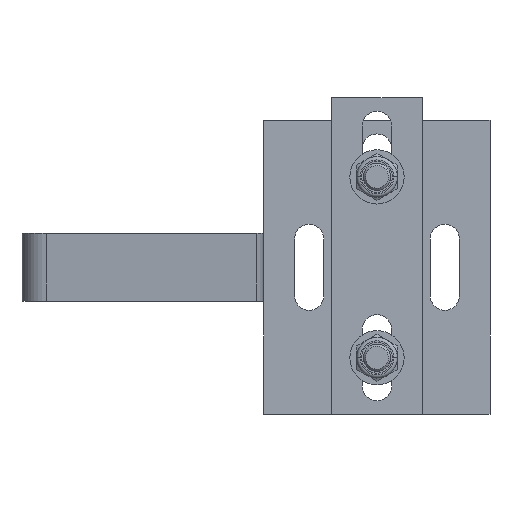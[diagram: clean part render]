
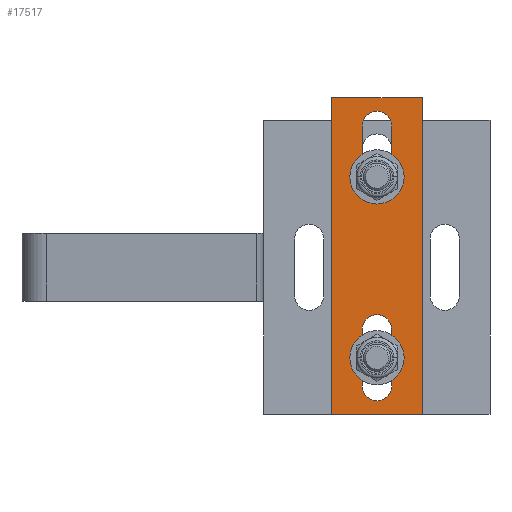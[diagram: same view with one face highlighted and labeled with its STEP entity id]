
A CAD part, front view. The second image highlights one B-rep face of the part: STEP entity #17517.
In plain terms, the highlighted planar face has unit normal (0, -1, 0).
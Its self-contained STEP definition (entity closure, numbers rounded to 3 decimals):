
#8710 = DIRECTION ( 'NONE',  ( 0., 0., -1. ) ) ;
#9213 = DIRECTION ( 'NONE',  ( 0., 0., 1. ) ) ;
#9448 = DIRECTION ( 'NONE',  ( 0., -1., 0. ) ) ;
#9449 = CARTESIAN_POINT ( 'NONE',  ( 70., 0., -20. ) ) ;
#9452 = AXIS2_PLACEMENT_3D ( 'NONE', #9449, #9448, #8710 ) ;
#9455 = PLANE ( 'NONE',  #9452 ) ;
#9542 = CARTESIAN_POINT ( 'NONE',  ( -70., 0., 20. ) ) ;
#9665 = CARTESIAN_POINT ( 'NONE',  ( 57.5, 0., 6.5 ) ) ;
#9666 = CIRCLE ( 'NONE', #9718, 6.5 ) ;
#9668 = CIRCLE ( 'NONE', #9669, 6.5 ) ;
#9669 = AXIS2_PLACEMENT_3D ( 'NONE', #9731, #9730, #9729 ) ;
#9671 = CARTESIAN_POINT ( 'NONE',  ( 32.5, 0., -6.5 ) ) ;
#9680 = DIRECTION ( 'NONE',  ( -1., 0., 0. ) ) ;
#9681 = VECTOR ( 'NONE', #9680, 1000. ) ;
#9682 = CARTESIAN_POINT ( 'NONE',  ( -57.5, 0., -6.5 ) ) ;
#9683 = LINE ( 'NONE', #9682, #9681 ) ;
#9697 = DIRECTION ( 'NONE',  ( 1., 0., 0. ) ) ;
#9698 = VECTOR ( 'NONE', #9697, 1000. ) ;
#9699 = CARTESIAN_POINT ( 'NONE',  ( -70., 0., 20. ) ) ;
#9700 = LINE ( 'NONE', #9699, #9698 ) ;
#9701 = FACE_BOUND ( 'NONE', #17471, .T. ) ;
#9707 = CARTESIAN_POINT ( 'NONE',  ( 70., 0., -20. ) ) ;
#9709 = CARTESIAN_POINT ( 'NONE',  ( 70., 0., 20. ) ) ;
#9710 = DIRECTION ( 'NONE',  ( 0., 0., -1. ) ) ;
#9711 = VECTOR ( 'NONE', #9710, 1000. ) ;
#9712 = LINE ( 'NONE', #9719, #9711 ) ;
#9713 = FACE_OUTER_BOUND ( 'NONE', #17505, .T. ) ;
#9714 = AXIS2_PLACEMENT_3D ( 'NONE', #9726, #9721, #9213 ) ;
#9715 = DIRECTION ( 'NONE',  ( 0., 0., 1. ) ) ;
#9716 = DIRECTION ( 'NONE',  ( 0., 1., 0. ) ) ;
#9717 = CARTESIAN_POINT ( 'NONE',  ( -32.5, 0., 0. ) ) ;
#9718 = AXIS2_PLACEMENT_3D ( 'NONE', #9717, #9716, #9715 ) ;
#9719 = CARTESIAN_POINT ( 'NONE',  ( 70., 0., 20. ) ) ;
#9720 = FACE_BOUND ( 'NONE', #17564, .T. ) ;
#9721 = DIRECTION ( 'NONE',  ( 0., 1., 0. ) ) ;
#9722 = CARTESIAN_POINT ( 'NONE',  ( -57.5, 0., -6.5 ) ) ;
#9723 = DIRECTION ( 'NONE',  ( 1., 0., 0. ) ) ;
#9724 = VECTOR ( 'NONE', #9723, 1000. ) ;
#9725 = CARTESIAN_POINT ( 'NONE',  ( -57.5, 0., 6.5 ) ) ;
#9726 = CARTESIAN_POINT ( 'NONE',  ( -57.5, 0., 0. ) ) ;
#9727 = CIRCLE ( 'NONE', #9714, 6.5 ) ;
#9728 = LINE ( 'NONE', #9725, #9724 ) ;
#9729 = DIRECTION ( 'NONE',  ( 0., 0., -1. ) ) ;
#9730 = DIRECTION ( 'NONE',  ( 0., 1., 0. ) ) ;
#9731 = CARTESIAN_POINT ( 'NONE',  ( 57.5, 0., 0. ) ) ;
#9733 = CARTESIAN_POINT ( 'NONE',  ( 57.5, 0., -6.5 ) ) ;
#9743 = AXIS2_PLACEMENT_3D ( 'NONE', #9772, #9769, #9768 ) ;
#9744 = CARTESIAN_POINT ( 'NONE',  ( -32.5, 0., -6.5 ) ) ;
#9761 = CARTESIAN_POINT ( 'NONE',  ( -32.5, 0., 6.5 ) ) ;
#9762 = CARTESIAN_POINT ( 'NONE',  ( -57.5, 0., 6.5 ) ) ;
#9768 = DIRECTION ( 'NONE',  ( 0., 0., -1. ) ) ;
#9769 = DIRECTION ( 'NONE',  ( 0., 1., 0. ) ) ;
#9772 = CARTESIAN_POINT ( 'NONE',  ( 32.5, 0., 0. ) ) ;
#9777 = CIRCLE ( 'NONE', #9743, 6.5 ) ;
#9778 = DIRECTION ( 'NONE',  ( -1., 0., 0. ) ) ;
#9779 = VECTOR ( 'NONE', #9778, 1000. ) ;
#9780 = LINE ( 'NONE', #9733, #9779 ) ;
#9789 = CARTESIAN_POINT ( 'NONE',  ( -70., 0., -20. ) ) ;
#9802 = DIRECTION ( 'NONE',  ( 0., 0., 1. ) ) ;
#9803 = VECTOR ( 'NONE', #9802, 1000. ) ;
#9804 = CARTESIAN_POINT ( 'NONE',  ( -70., 0., 20. ) ) ;
#9805 = CARTESIAN_POINT ( 'NONE',  ( -70., 0., -20. ) ) ;
#9806 = LINE ( 'NONE', #9804, #9803 ) ;
#9807 = VECTOR ( 'NONE', #9811, 1000. ) ;
#9808 = LINE ( 'NONE', #9817, #9807 ) ;
#9810 = DIRECTION ( 'NONE',  ( -1., 0., 0. ) ) ;
#9811 = DIRECTION ( 'NONE',  ( 1., 0., 0. ) ) ;
#9813 = CARTESIAN_POINT ( 'NONE',  ( 32.5, 0., 6.5 ) ) ;
#9817 = CARTESIAN_POINT ( 'NONE',  ( 57.5, 0., 6.5 ) ) ;
#9824 = VECTOR ( 'NONE', #9810, 1000. ) ;
#9825 = LINE ( 'NONE', #9789, #9824 ) ;
#9827 = CARTESIAN_POINT ( 'NONE',  ( 57.5, 0., -6.5 ) ) ;
#17423 = VERTEX_POINT ( 'NONE', #9542 ) ;
#17461 = ORIENTED_EDGE ( 'NONE', *, *, #17503, .T. ) ;
#17471 = EDGE_LOOP ( 'NONE', ( #17518, #17511, #17502, #17461 ) ) ;
#17486 = EDGE_CURVE ( 'NONE', #17528, #17515, #9683, .T. ) ;
#17494 = ORIENTED_EDGE ( 'NONE', *, *, #17496, .T. ) ;
#17495 = ORIENTED_EDGE ( 'NONE', *, *, #17558, .T. ) ;
#17496 = EDGE_CURVE ( 'NONE', #17498, #17566, #9668, .T. ) ;
#17498 = VERTEX_POINT ( 'NONE', #9665 ) ;
#17499 = VERTEX_POINT ( 'NONE', #9671 ) ;
#17501 = EDGE_CURVE ( 'NONE', #17527, #17520, #9728, .T. ) ;
#17502 = ORIENTED_EDGE ( 'NONE', *, *, #17501, .T. ) ;
#17503 = EDGE_CURVE ( 'NONE', #17520, #17528, #9666, .T. ) ;
#17504 = EDGE_CURVE ( 'NONE', #17507, #17516, #9712, .T. ) ;
#17505 = EDGE_LOOP ( 'NONE', ( #17506, #17510, #17556, #17563 ) ) ;
#17506 = ORIENTED_EDGE ( 'NONE', *, *, #17504, .F. ) ;
#17507 = VERTEX_POINT ( 'NONE', #9709 ) ;
#17510 = ORIENTED_EDGE ( 'NONE', *, *, #17514, .F. ) ;
#17511 = ORIENTED_EDGE ( 'NONE', *, *, #17519, .T. ) ;
#17514 = EDGE_CURVE ( 'NONE', #17423, #17507, #9700, .T. ) ;
#17515 = VERTEX_POINT ( 'NONE', #9722 ) ;
#17516 = VERTEX_POINT ( 'NONE', #9707 ) ;
#17517 = ADVANCED_FACE ( 'NONE', ( #9701, #9713, #9720 ), #9455, .T. ) ;
#17518 = ORIENTED_EDGE ( 'NONE', *, *, #17486, .T. ) ;
#17519 = EDGE_CURVE ( 'NONE', #17515, #17527, #9727, .T. ) ;
#17520 = VERTEX_POINT ( 'NONE', #9761 ) ;
#17527 = VERTEX_POINT ( 'NONE', #9762 ) ;
#17528 = VERTEX_POINT ( 'NONE', #9744 ) ;
#17543 = EDGE_CURVE ( 'NONE', #17566, #17499, #9780, .T. ) ;
#17545 = ORIENTED_EDGE ( 'NONE', *, *, #17543, .T. ) ;
#17546 = EDGE_CURVE ( 'NONE', #17499, #17561, #9777, .T. ) ;
#17547 = ORIENTED_EDGE ( 'NONE', *, *, #17546, .T. ) ;
#17556 = ORIENTED_EDGE ( 'NONE', *, *, #17559, .F. ) ;
#17557 = EDGE_CURVE ( 'NONE', #17516, #17560, #9825, .T. ) ;
#17558 = EDGE_CURVE ( 'NONE', #17561, #17498, #9808, .T. ) ;
#17559 = EDGE_CURVE ( 'NONE', #17560, #17423, #9806, .T. ) ;
#17560 = VERTEX_POINT ( 'NONE', #9805 ) ;
#17561 = VERTEX_POINT ( 'NONE', #9813 ) ;
#17563 = ORIENTED_EDGE ( 'NONE', *, *, #17557, .F. ) ;
#17564 = EDGE_LOOP ( 'NONE', ( #17495, #17494, #17545, #17547 ) ) ;
#17566 = VERTEX_POINT ( 'NONE', #9827 ) ;
